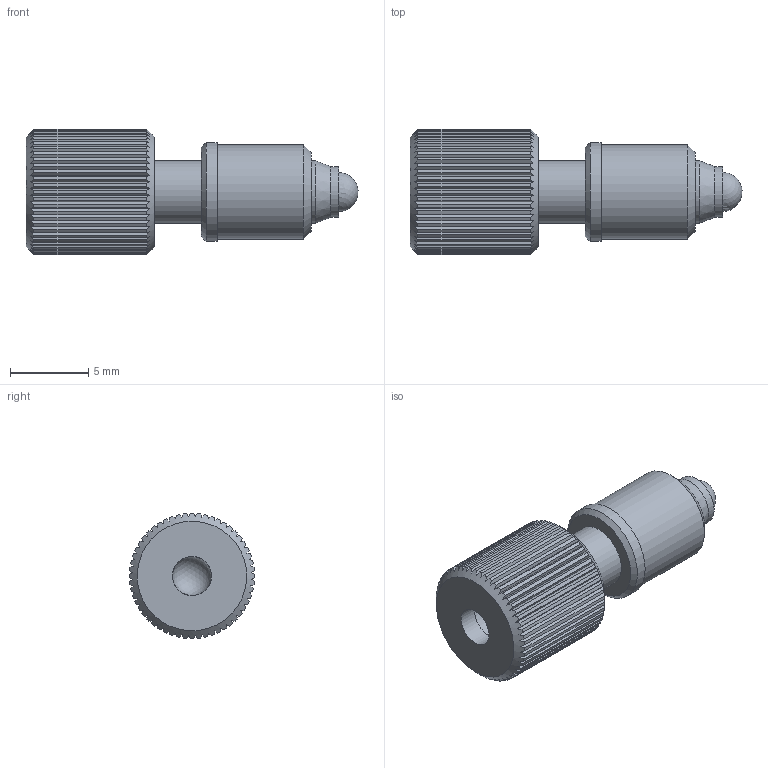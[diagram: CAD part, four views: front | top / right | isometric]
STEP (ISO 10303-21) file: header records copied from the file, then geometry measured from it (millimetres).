
FILE_DESCRIPTION (( 'STEP AP203' ), '1' );
FILE_NAME ('FSA4-6.step', '2017-01-11T07:17:17', ( '¦K¬P' ), ( '' ), 'SwSTEP 2.0', 'SolidWorks 2012', '' );
FILE_SCHEMA (( 'CONFIG_CONTROL_DESIGN' ));
Length unit declared in the file: millimetre
Products named in the file (1): FSA4-6
Bounding box: 21.19 x 8 x 8 mm (x, y, z)
Surface area: 843.6 mm2 (no closed solid volume)
Topology: 0 solids, 4 shells, 187 faces, 540 edges, 358 vertices
Faces by surface type: plane 118, cylinder 63, cone 5, sphere 1
Full cylindrical faces by diameter (mm): 2.5 x1, 3.25 x1, 3.9 x1, 4 x1, 4.1 x1, 6 x1, 6.3 x1
Entity records: 6359 total; most frequent: CARTESIAN_POINT 1742, ORIENTED_EDGE 1043, DIRECTION 810, EDGE_CURVE 525, VERTEX_POINT 357, AXIS2_PLACEMENT_3D 321, B_SPLINE_CURVE_WITH_KNOTS 224, EDGE_LOOP 205
